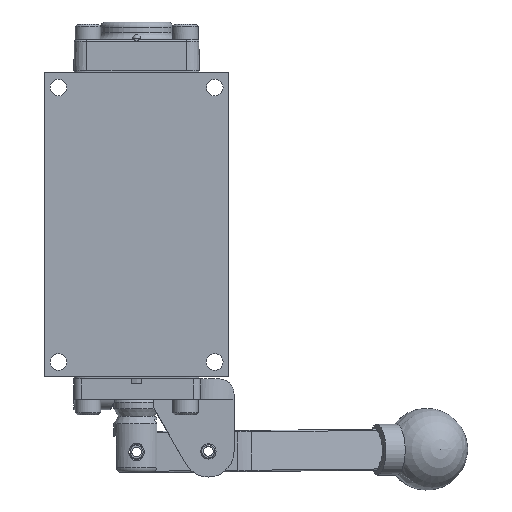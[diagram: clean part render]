
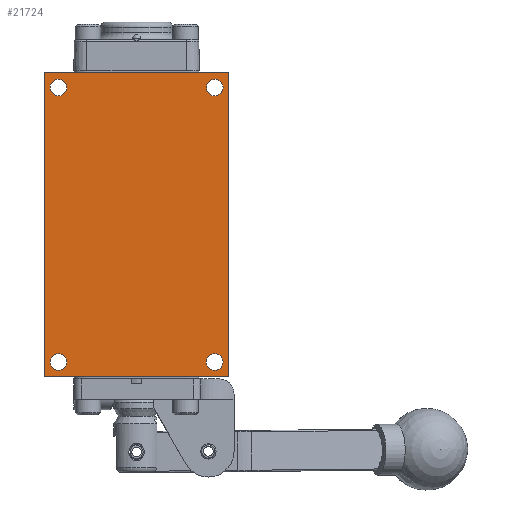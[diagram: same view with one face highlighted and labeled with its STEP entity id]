
A CAD part, front view. The second image highlights one B-rep face of the part: STEP entity #21724.
In plain terms, the highlighted planar face has unit normal (0, -1, 0).
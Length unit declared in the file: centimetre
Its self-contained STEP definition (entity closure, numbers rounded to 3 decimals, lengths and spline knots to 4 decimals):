
#1351=FACE_BOUND('',#6912,.T.);
#1352=FACE_BOUND('',#6913,.T.);
#1353=FACE_BOUND('',#6914,.T.);
#1354=FACE_BOUND('',#6915,.T.);
#1608=LINE('',#31097,#3201);
#1618=LINE('',#31136,#3211);
#1836=LINE('',#32091,#3429);
#2078=LINE('',#33515,#3671);
#3201=VECTOR('',#25195,1.);
#3211=VECTOR('',#25227,1.);
#3429=VECTOR('',#25615,1.);
#3671=VECTOR('',#26007,1.);
#4860=PLANE('',#23149);
#5590=FACE_OUTER_BOUND('',#6911,.T.);
#6911=EDGE_LOOP('',(#15953,#15954,#15955,#15956));
#6912=EDGE_LOOP('',(#15957));
#6913=EDGE_LOOP('',(#15958));
#6914=EDGE_LOOP('',(#15959));
#6915=EDGE_LOOP('',(#15960));
#8064=CIRCLE('',#23117,0.2578);
#8065=CIRCLE('',#23119,0.2578);
#8066=CIRCLE('',#23121,0.2578);
#8067=CIRCLE('',#23123,0.2578);
#8986=VERTEX_POINT('',#31094);
#8987=VERTEX_POINT('',#31096);
#9004=VERTEX_POINT('',#31133);
#9005=VERTEX_POINT('',#31135);
#9530=VERTEX_POINT('',#34319);
#9531=VERTEX_POINT('',#34323);
#9532=VERTEX_POINT('',#34327);
#9533=VERTEX_POINT('',#34331);
#11038=EDGE_CURVE('',#8986,#8987,#1608,.T.);
#11056=EDGE_CURVE('',#9004,#9005,#1618,.T.);
#11337=EDGE_CURVE('',#9005,#8986,#1836,.T.);
#11673=EDGE_CURVE('',#8987,#9004,#2078,.T.);
#11845=EDGE_CURVE('',#9530,#9530,#8064,.T.);
#11847=EDGE_CURVE('',#9531,#9531,#8065,.T.);
#11849=EDGE_CURVE('',#9532,#9532,#8066,.T.);
#11851=EDGE_CURVE('',#9533,#9533,#8067,.T.);
#15953=ORIENTED_EDGE('',*,*,#11337,.F.);
#15954=ORIENTED_EDGE('',*,*,#11056,.F.);
#15955=ORIENTED_EDGE('',*,*,#11673,.F.);
#15956=ORIENTED_EDGE('',*,*,#11038,.F.);
#15957=ORIENTED_EDGE('',*,*,#11845,.T.);
#15958=ORIENTED_EDGE('',*,*,#11847,.T.);
#15959=ORIENTED_EDGE('',*,*,#11849,.T.);
#15960=ORIENTED_EDGE('',*,*,#11851,.T.);
#21724=ADVANCED_FACE('',(#5590,#1351,#1352,#1353,#1354),#4860,.F.);
#23117=AXIS2_PLACEMENT_3D('',#34321,#26371,#26372);
#23119=AXIS2_PLACEMENT_3D('',#34325,#26376,#26377);
#23121=AXIS2_PLACEMENT_3D('',#34329,#26381,#26382);
#23123=AXIS2_PLACEMENT_3D('',#34333,#26386,#26387);
#23149=AXIS2_PLACEMENT_3D('',#34384,#26453,#26454);
#25195=DIRECTION('',(1.,0.,0.));
#25227=DIRECTION('',(-1.,0.,0.));
#25615=DIRECTION('',(0.,0.,1.));
#26007=DIRECTION('',(0.,0.,-1.));
#26371=DIRECTION('center_axis',(0.,1.,0.));
#26372=DIRECTION('ref_axis',(-1.,0.,0.));
#26376=DIRECTION('center_axis',(0.,1.,0.));
#26377=DIRECTION('ref_axis',(-1.,0.,0.));
#26381=DIRECTION('center_axis',(0.,1.,0.));
#26382=DIRECTION('ref_axis',(-1.,0.,0.));
#26386=DIRECTION('center_axis',(0.,1.,0.));
#26387=DIRECTION('ref_axis',(-1.,0.,0.));
#26453=DIRECTION('center_axis',(0.,1.,0.));
#26454=DIRECTION('ref_axis',(0.,0.,1.));
#31094=CARTESIAN_POINT('',(-2.8575,-1.6358,4.7104));
#31096=CARTESIAN_POINT('',(2.8575,-1.6358,4.7104));
#31097=CARTESIAN_POINT('',(-2.8575,-1.6358,4.7104));
#31133=CARTESIAN_POINT('',(2.8575,-1.6358,-4.7104));
#31135=CARTESIAN_POINT('',(-2.8575,-1.6358,-4.7104));
#31136=CARTESIAN_POINT('',(2.8575,-1.6358,-4.7104));
#32091=CARTESIAN_POINT('',(-2.8575,-1.6358,-4.7104));
#33515=CARTESIAN_POINT('',(2.8575,-1.6358,4.7104));
#34319=CARTESIAN_POINT('',(-2.1628,-1.6358,-4.2469));
#34321=CARTESIAN_POINT('Origin',(-2.4206,-1.6358,-4.2469));
#34323=CARTESIAN_POINT('',(-2.1628,-1.6358,4.2469));
#34325=CARTESIAN_POINT('Origin',(-2.4206,-1.6358,4.2469));
#34327=CARTESIAN_POINT('',(2.6784,-1.6358,-4.2469));
#34329=CARTESIAN_POINT('Origin',(2.4206,-1.6358,-4.2469));
#34331=CARTESIAN_POINT('',(2.6784,-1.6358,4.2469));
#34333=CARTESIAN_POINT('Origin',(2.4206,-1.6358,4.2469));
#34384=CARTESIAN_POINT('Origin',(0.,-1.6358,0.));
